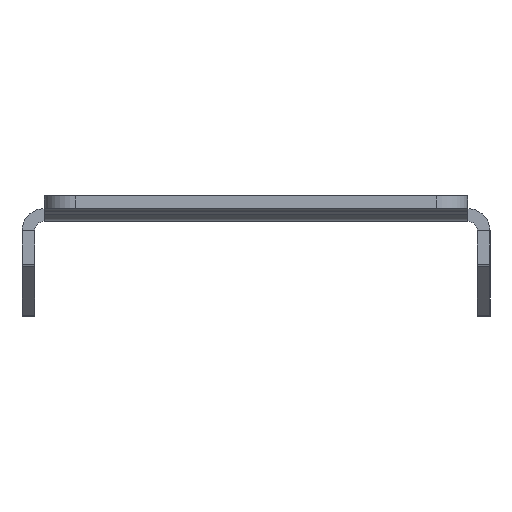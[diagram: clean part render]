
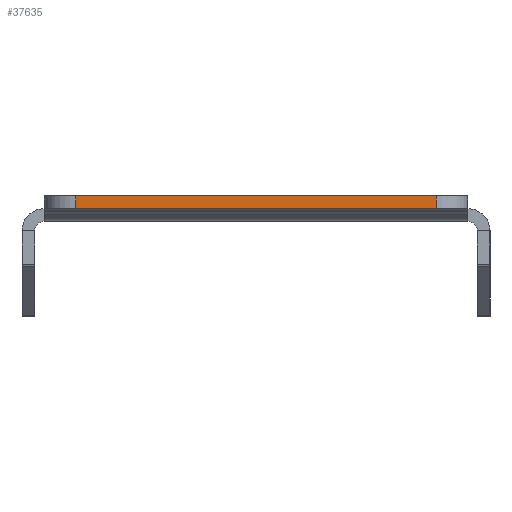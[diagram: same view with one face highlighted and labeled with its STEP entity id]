
A CAD part, left-side view. The second image highlights one B-rep face of the part: STEP entity #37635.
In plain terms, the highlighted planar face has unit normal (-1, 0, 0).
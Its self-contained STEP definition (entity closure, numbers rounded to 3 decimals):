
#306 = ORIENTED_EDGE ( 'NONE', *, *, #41094, .T. ) ;
#769 = AXIS2_PLACEMENT_3D ( 'NONE', #7315, #27916, #39250 ) ;
#1799 = ORIENTED_EDGE ( 'NONE', *, *, #31747, .T. ) ;
#2009 = VERTEX_POINT ( 'NONE', #22342 ) ;
#2428 = DIRECTION ( 'NONE',  ( 0., 1., 0. ) ) ;
#2696 = VECTOR ( 'NONE', #35612, 1000. ) ;
#4534 = EDGE_LOOP ( 'NONE', ( #19970, #306, #16712, #1799 ) ) ;
#5914 = EDGE_CURVE ( 'NONE', #30465, #16562, #43341, .T. ) ;
#7315 = CARTESIAN_POINT ( 'NONE',  ( -376.002, 33.5, 9.531 ) ) ;
#8657 = CARTESIAN_POINT ( 'NONE',  ( -376.002, -28.5, 7.531 ) ) ;
#8672 = VECTOR ( 'NONE', #18514, 1000. ) ;
#16562 = VERTEX_POINT ( 'NONE', #35891 ) ;
#16712 = ORIENTED_EDGE ( 'NONE', *, *, #35059, .T. ) ;
#18514 = DIRECTION ( 'NONE',  ( 0., 1., 0. ) ) ;
#19184 = CARTESIAN_POINT ( 'NONE',  ( -376.002, -28.5, 9.531 ) ) ;
#19970 = ORIENTED_EDGE ( 'NONE', *, *, #5914, .F. ) ;
#20850 = CARTESIAN_POINT ( 'NONE',  ( -376.002, 33.5, 9.531 ) ) ;
#22342 = CARTESIAN_POINT ( 'NONE',  ( -376.002, -28.5, 9.531 ) ) ;
#24026 = VECTOR ( 'NONE', #2428, 1000. ) ;
#25285 = FACE_OUTER_BOUND ( 'NONE', #4534, .T. ) ;
#25844 = VECTOR ( 'NONE', #44228, 1000. ) ;
#27916 = DIRECTION ( 'NONE',  ( -1., 0., 0. ) ) ;
#29817 = LINE ( 'NONE', #19184, #25844 ) ;
#30465 = VERTEX_POINT ( 'NONE', #8657 ) ;
#31351 = LINE ( 'NONE', #46009, #2696 ) ;
#31747 = EDGE_CURVE ( 'NONE', #39787, #16562, #31351, .T. ) ;
#32394 = PLANE ( 'NONE',  #769 ) ;
#32488 = CARTESIAN_POINT ( 'NONE',  ( -376.002, 0., 7.531 ) ) ;
#32525 = CARTESIAN_POINT ( 'NONE',  ( -376.002, 28.5, 9.531 ) ) ;
#35059 = EDGE_CURVE ( 'NONE', #2009, #39787, #44515, .T. ) ;
#35612 = DIRECTION ( 'NONE',  ( 0., 0., -1. ) ) ;
#35891 = CARTESIAN_POINT ( 'NONE',  ( -376.002, 28.5, 7.531 ) ) ;
#37635 = ADVANCED_FACE ( 'NONE', ( #25285 ), #32394, .T. ) ;
#39250 = DIRECTION ( 'NONE',  ( 0., 0., 1. ) ) ;
#39787 = VERTEX_POINT ( 'NONE', #32525 ) ;
#41094 = EDGE_CURVE ( 'NONE', #30465, #2009, #29817, .T. ) ;
#43341 = LINE ( 'NONE', #32488, #8672 ) ;
#44228 = DIRECTION ( 'NONE',  ( 0., 0., 1. ) ) ;
#44515 = LINE ( 'NONE', #20850, #24026 ) ;
#46009 = CARTESIAN_POINT ( 'NONE',  ( -376.002, 28.5, 9.531 ) ) ;
